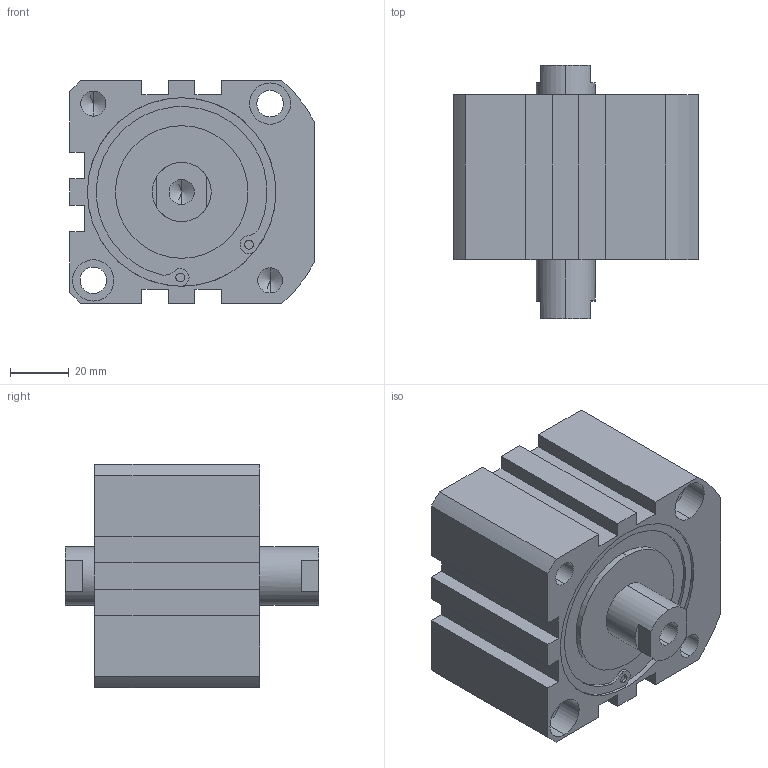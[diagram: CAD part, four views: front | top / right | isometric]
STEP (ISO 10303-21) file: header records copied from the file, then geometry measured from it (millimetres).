
FILE_DESCRIPTION (( 'STEP AP203' ), '1' );
FILE_NAME ('XC#7-63-10.STEP', '2016-05-23T08:26:59', ( '' ), ( '' ), 'SwSTEP 2.0', 'SolidWorks 2014', '' );
FILE_SCHEMA (( 'CONFIG_CONTROL_DESIGN' ));
Length unit declared in the file: millimetre
Products named in the file (1): XC#7-63-10
Bounding box: 83 x 86 x 76 mm (x, y, z)
Volume: 310845.1 mm3; surface area: 43651.2 mm2
Topology: 1 solids, 1 shells, 145 faces, 365 edges, 230 vertices
Faces by surface type: cylinder 69, plane 56, cone 20
Entity records: 4362 total; most frequent: DIRECTION 799, CARTESIAN_POINT 725, ORIENTED_EDGE 698, EDGE_CURVE 349, AXIS2_PLACEMENT_3D 304, VERTEX_POINT 230, LINE 191, VECTOR 191
